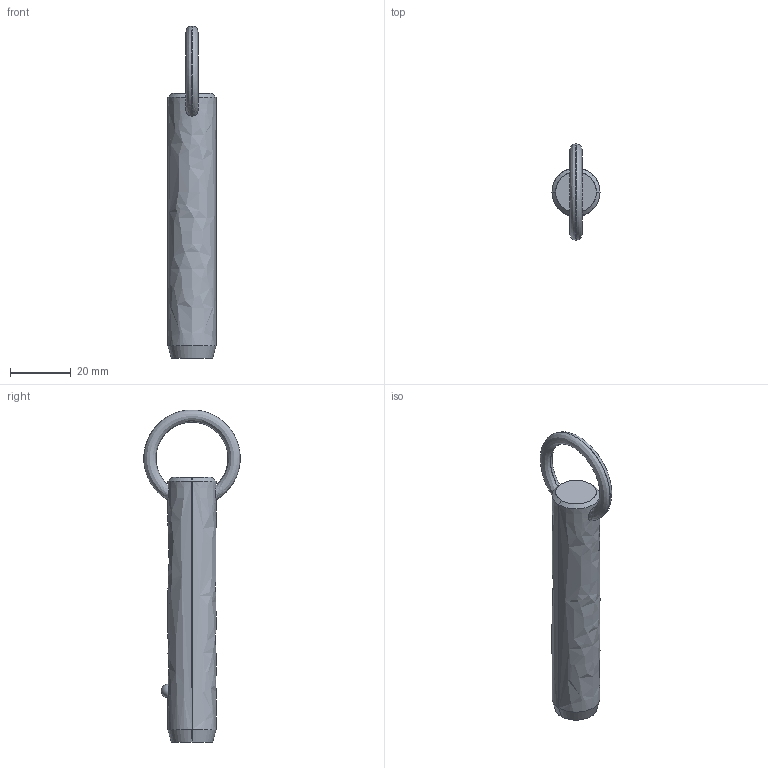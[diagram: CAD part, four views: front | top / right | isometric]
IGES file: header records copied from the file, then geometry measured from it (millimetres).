
Start section: SolidWorks IGES file using analytic representation for surfaces
Global section: file name: C:\Users\liam_\OneDrive\Documents\WORK\Work for WixRoyd\Job Files\J-00019 - Matt Davis CAD Checking\04. CAD Drawings\automotion20190605\P1250.2_v2\P1250.2_v2_20190729_IGES\P1250.062-230.igs; native system: SolidWorks 2017; preprocessor: SolidWorks 2017; author: liam_; date: 190729.233245; units: millimetre
Bounding box: 15.8 x 31.67 x 109.09 mm (x, y, z)
Surface area: 5487.3 mm2 (no closed solid volume)
Topology: 0 solids, 0 shells, 12 faces, 292 edges, 290 vertices
Faces by surface type: revolution 8, bspline 4
